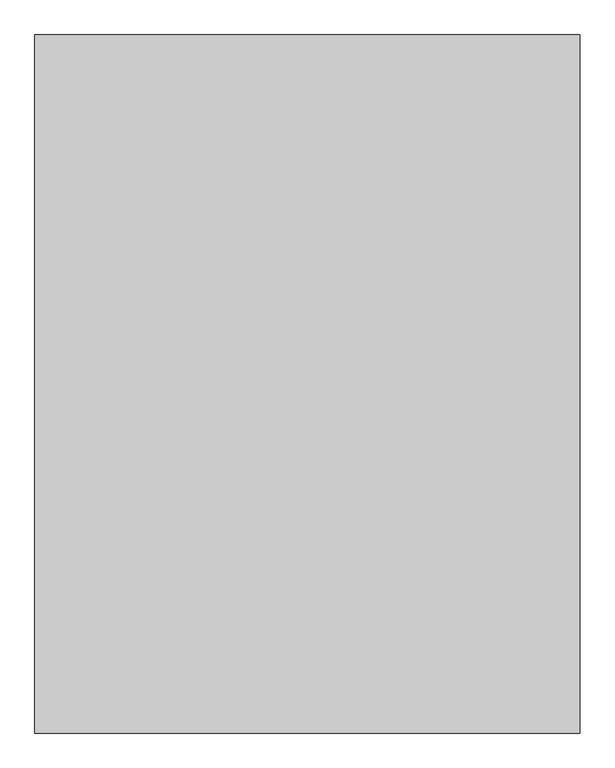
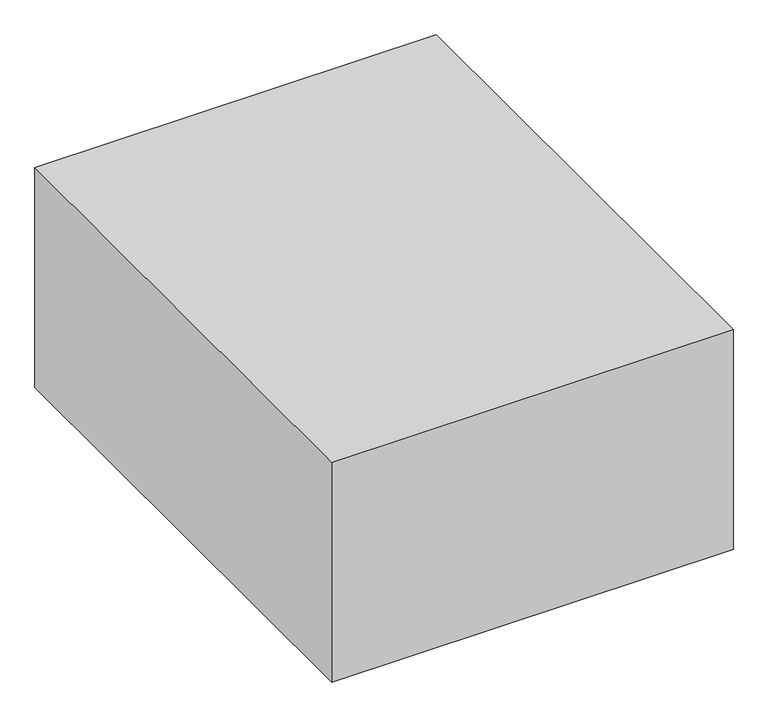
"""IFC4 building model written with IfcOpenShell, lengths in millimetres: furniture geometry, BIMHealth-Bed_Birthing_Bed-LOD2A-v1 : BIMHealth-Bed_Birthing_Bed-LOD2A-v1."""

import ifcopenshell
import ifcopenshell.guid

model = None  # the IFC model being written
_history = None  # IfcOwnerHistory: only IFC2X3 demands one
_inside = {}  # id of a spatial element -> (the spatial element, [elements in it])
_under = {}  # id of a project, library or spatial element -> (it, [spatial elements below it])
_declared = {}  # id of a project -> (the project, [libraries it declares])
_typed = {}  # id of a type object -> (the type object, [elements of that type])
_made_of = {}  # id of a material, layer set ... -> (it, [elements and type objects made of it])


def new_model(schema):
    """Start an empty IFC model of exactly this schema.

    Asked for "IFC4X3", IfcOpenShell would pick the latest addendum, in which some entities
    have other attributes; the version numbers below select the first issue.
    IFC2X3 requires an IfcOwnerHistory on every rooted entity: one is made here for all.
    """
    global model, _history
    if schema == "IFC4X3":
        model = ifcopenshell.file(schema_version=(4, 3, 0, 0))
    else:
        model = ifcopenshell.file(schema=schema)
    _inside.clear()
    _under.clear()
    _declared.clear()
    _typed.clear()
    _made_of.clear()
    _history = None
    if model.schema == "IFC2X3":
        org = make("IfcOrganization", Name="unknown")
        user = make(
            "IfcPersonAndOrganization",
            ThePerson=make("IfcPerson", FamilyName="unknown"),
            TheOrganization=org,
        )
        app = make(
            "IfcApplication",
            ApplicationDeveloper=org,
            Version="unknown",
            ApplicationFullName="unknown",
            ApplicationIdentifier="unknown",
        )
        _history = make(
            "IfcOwnerHistory",
            OwningUser=user,
            OwningApplication=app,
            ChangeAction="ADDED",
            CreationDate=0,
        )
    return model


def make(cls, **values):
    """One entity of the class cls with the attributes given. An attribute that is None is left unset."""
    return model.create_entity(
        cls, **{name: value for name, value in values.items() if value is not None}
    )


def rooted(cls, **values):
    """An entity with a GlobalId (a new one), such as an element, a storey or a relation."""
    return make(cls, GlobalId=ifcopenshell.guid.new(), OwnerHistory=_history, **values)


def si_unit(unit_type, name, prefix=None):
    """IfcSIUnit, for example si_unit("LENGTHUNIT", "METRE", prefix="MILLI")."""
    return make("IfcSIUnit", UnitType=unit_type, Prefix=prefix, Name=name)


def assignment(units):
    """IfcUnitAssignment: the units of a project."""
    return None if units is None else make("IfcUnitAssignment", Units=units)


def point(xyz):
    """IfcCartesianPoint."""
    return None if xyz is None else make("IfcCartesianPoint", Coordinates=xyz)


def direction(xyz):
    """IfcDirection."""
    return None if xyz is None else make("IfcDirection", DirectionRatios=xyz)


def frame(location, z_axis=None, x_axis=None):
    """IfcAxis2Placement3D, a coordinate frame: its origin and axes. An axis left out is left unset."""
    return make(
        "IfcAxis2Placement3D",
        Location=point(location),
        Axis=direction(z_axis),
        RefDirection=direction(x_axis),
    )


def frame_2d(location, x_axis=None):
    """IfcAxis2Placement2D, a coordinate frame in the plane: its origin and x axis."""
    return make(
        "IfcAxis2Placement2D", Location=point(location), RefDirection=direction(x_axis)
    )


def origin():
    """The frame at (0, 0, 0) with its axes left unset."""
    return frame((0.0, 0.0, 0.0))


def origin_with_axes():
    """The frame at (0, 0, 0) with the z axis (0, 0, 1) and the x axis (1, 0, 0) written out."""
    return frame((0.0, 0.0, 0.0), z_axis=(0.0, 0.0, 1.0), x_axis=(1.0, 0.0, 0.0))


def place(relative_to, where):
    """IfcLocalPlacement: puts the frame where relative to a parent placement (None: the world)."""
    return make(
        "IfcLocalPlacement", PlacementRelTo=relative_to, RelativePlacement=where
    )


def context(
    kind, dimensions, precision=None, world=None, true_north=None, identifier=None
):
    """IfcGeometricRepresentationContext, for example the 3D "Model" context."""
    return make(
        "IfcGeometricRepresentationContext",
        ContextIdentifier=identifier,
        ContextType=kind,
        CoordinateSpaceDimension=dimensions,
        Precision=precision,
        WorldCoordinateSystem=world,
        TrueNorth=true_north,
    )


def project(units=None, contexts=None):
    """IfcProject with its units and contexts."""
    return rooted(
        "IfcProject",
        Name="project",
        RepresentationContexts=contexts,
        UnitsInContext=assignment(units),
    )


def spatial(cls, under=None, at=None, **own):
    """A site, building, storey or space (cls), placed at a placement, below another one or the project."""
    s = rooted(cls, ObjectPlacement=at, **own)
    if under is not None:
        _under.setdefault(under.id(), (under, []))[1].append(s)
    return s


def polyline(points):
    """IfcPolyline through the points."""
    return make("IfcPolyline", Points=[point(p) for p in points])


def circle_curve(where, radius):
    """IfcCircle in the frame where."""
    return make("IfcCircle", Position=where, Radius=radius)


def trimmed(basis, trim1, trim2, sense, master):
    """IfcTrimmedCurve: the piece of a basis curve between two trims."""
    return make(
        "IfcTrimmedCurve",
        BasisCurve=basis,
        Trim1=trim1,
        Trim2=trim2,
        SenseAgreement=sense,
        MasterRepresentation=master,
    )


def segment(curve, same_sense, transition):
    """IfcCompositeCurveSegment."""
    return make(
        "IfcCompositeCurveSegment",
        Transition=transition,
        SameSense=same_sense,
        ParentCurve=curve,
    )


def composite_curve(segments, self_intersect=None):
    """IfcCompositeCurve: segments joined end to end."""
    return make("IfcCompositeCurve", Segments=segments, SelfIntersect=self_intersect)


def outline(outer, holes=None, kind="AREA"):
    """IfcArbitraryClosedProfileDef: a profile drawn as a closed curve; with holes, ...WithVoids."""
    if holes is None:
        return make("IfcArbitraryClosedProfileDef", ProfileType=kind, OuterCurve=outer)
    return make(
        "IfcArbitraryProfileDefWithVoids",
        ProfileType=kind,
        OuterCurve=outer,
        InnerCurves=holes,
    )


def extrude(swept, where, along, depth):
    """IfcExtrudedAreaSolid: the profile swept, set in the frame where, extruded along a direction by depth."""
    return make(
        "IfcExtrudedAreaSolid",
        SweptArea=swept,
        Position=where,
        ExtrudedDirection=direction(along),
        Depth=depth,
    )


def shape(context_of_items, identifier, shape_type, items):
    """IfcShapeRepresentation: the items that make up one representation, for example the "Body"."""
    return make(
        "IfcShapeRepresentation",
        ContextOfItems=context_of_items,
        RepresentationIdentifier=identifier,
        RepresentationType=shape_type,
        Items=items,
    )


def source(mapping_origin, context_of_items, identifier, shape_type, items):
    """IfcRepresentationMap: a shape defined once, which mapped items show again and again."""
    return make(
        "IfcRepresentationMap",
        MappingOrigin=mapping_origin,
        MappedRepresentation=shape(context_of_items, identifier, shape_type, items),
    )


def transform(
    local_origin,
    x_axis=None,
    y_axis=None,
    z_axis=None,
    scale=None,
    scale2=None,
    scale3=None,
    uniform=True,
):
    """IfcCartesianTransformationOperator3D, or its non-uniform kind. x_axis, y_axis, z_axis: its Axis1, 2, 3."""
    if uniform:
        return make(
            "IfcCartesianTransformationOperator3D",
            Axis1=direction(x_axis),
            Axis2=direction(y_axis),
            LocalOrigin=point(local_origin),
            Scale=scale,
            Axis3=direction(z_axis),
        )
    return make(
        "IfcCartesianTransformationOperator3DnonUniform",
        Axis1=direction(x_axis),
        Axis2=direction(y_axis),
        LocalOrigin=point(local_origin),
        Scale=scale,
        Axis3=direction(z_axis),
        Scale2=scale2,
        Scale3=scale3,
    )


def mapped(mapping_source, mapping_target):
    """IfcMappedItem: shows the shape of a source again, moved by a transform."""
    return make(
        "IfcMappedItem", MappingSource=mapping_source, MappingTarget=mapping_target
    )


def made_of(thing, what):
    """Note that an element or type object is made of a material, layer set ...; save() writes the relation."""
    if what is not None:
        _made_of.setdefault(what.id(), (what, []))[1].append(thing)
    return thing


def element(
    cls,
    number,
    at=None,
    inside=None,
    cuts=None,
    type_object=None,
    material=None,
    context=None,
    identifier="Body",
    shape_type=None,
    held_by="IfcProductDefinitionShape",
    body=None,
    shapes=None,
    **own,
):
    """One element of the class cls, such as IfcWall. Its Tag is "e" and its number.

    at: its placement. inside: the storey or other place that contains it. cuts: it is an
    opening in that element (IfcRelVoidsElement). A single representation is given by context,
    identifier, shape_type and body (its items); several are given by shapes. held_by: the class
    of the entity that holds the representations. save() writes the other relations.
    """
    e = rooted(cls, Tag="e%d" % number, ObjectPlacement=at, **own)
    if body is not None:
        shapes = [shape(context, identifier, shape_type, body)]
    if shapes is not None:
        e.Representation = make(held_by, Representations=shapes)
    if inside is not None:
        _inside.setdefault(inside.id(), (inside, []))[1].append(e)
    if cuts is not None:
        rooted(
            "IfcRelVoidsElement", RelatingBuildingElement=cuts, RelatedOpeningElement=e
        )
    if type_object is not None:
        _typed.setdefault(type_object.id(), (type_object, []))[1].append(e)
    return made_of(e, material)


def aggregate(whole, parts):
    """IfcRelAggregates: a whole, such as a stair, and the parts it consists of."""
    return rooted("IfcRelAggregates", RelatingObject=whole, RelatedObjects=parts)


def save(model, path):
    """Write the relations noted so far, then the file.

    IfcRelAggregates (storeys below a building ...), IfcRelContainedInSpatialStructure (elements
    in a storey), IfcRelDefinesByType, IfcRelAssociatesMaterial and IfcRelDeclares: one each for
    every whole, place, type object, material and project.
    """
    for whole, parts in _under.values():
        aggregate(whole, parts)
    for where, things in _inside.values():
        rooted(
            "IfcRelContainedInSpatialStructure",
            RelatedElements=things,
            RelatingStructure=where,
        )
    for kind, things in _typed.values():
        rooted("IfcRelDefinesByType", RelatedObjects=things, RelatingType=kind)
    for what, things in _made_of.values():
        rooted("IfcRelAssociatesMaterial", RelatedObjects=things, RelatingMaterial=what)
    for by, libraries in _declared.values():
        rooted("IfcRelDeclares", RelatingContext=by, RelatedDefinitions=libraries)
    model.write(path)


def furniture_b104e96e(model_context):
    return source(origin(), model_context, "Body", "SweptSolid", [
        extrude(outline(polyline([(-935.0, 344.0), (-135.0, 344.0), (-135.0, 269.0), (-805.0961894, 269.0), (-935.0, 344.0)])), frame((-250.0, 0.0, 0.0), z_axis=(1.0, 0.0, 0.0), x_axis=(0.0, 1.0, 0.0)), (0.0, 0.0, 1.0), 500.0),
        extrude(outline(composite_curve([segment(trimmed(circle_curve(frame_2d((-200.0, 879.8644864)), 30.0), [point((-230.0, 879.8644864))], [point((-170.0, 879.8644864))], False, "CARTESIAN"), True, "CONTINUOUS"), segment(trimmed(circle_curve(frame_2d((-200.0, 879.8644864)), 30.0), [point((-170.0, 879.8644864))], [point((-230.0, 879.8644864))], False, "CARTESIAN"), True, "CONTINUOUS")], self_intersect=False)), frame((0.0, 0.0, 403.0), z_axis=(0.0, 0.0, 1.0), x_axis=(1.0, 0.0, 0.0)), (0.0, 0.0, 1.0), 357.0),
        extrude(outline(composite_curve([segment(trimmed(circle_curve(frame_2d((200.0, 879.8644864)), 30.0), [point((230.0, 879.8644864))], [point((170.0, 879.8644864))], False, "CARTESIAN"), True, "CONTINUOUS"), segment(trimmed(circle_curve(frame_2d((200.0, 879.8644864)), 30.0), [point((170.0, 879.8644864))], [point((230.0, 879.8644864))], False, "CARTESIAN"), True, "CONTINUOUS")], self_intersect=False)), frame((0.0, 0.0, 403.0), z_axis=(0.0, 0.0, 1.0), x_axis=(1.0, 0.0, 0.0)), (0.0, 0.0, 1.0), 357.0),
        extrude(outline(polyline([(350.0, 1079.8644864), (350.0, 679.8644864), (-350.0, 679.8644864), (-350.0, 1079.8644864), (350.0, 1079.8644864)])), frame((0.0, 0.0, 344.0), z_axis=(0.0, 0.0, 1.0), x_axis=(1.0, 0.0, 0.0)), (0.0, 0.0, 1.0), 59.0),
        extrude(outline(composite_curve([segment(trimmed(circle_curve(frame_2d((-370.0, -75.0)), 20.0), [point((-350.0, -75.0))], [point((-390.0, -75.0))], False, "CARTESIAN"), True, "CONTINUOUS"), segment(trimmed(circle_curve(frame_2d((-370.0, -75.0)), 20.0), [point((-390.0, -75.0))], [point((-350.0, -75.0))], False, "CARTESIAN"), True, "CONTINUOUS")], self_intersect=False)), frame((0.0, 0.0, 175.0), z_axis=(0.0, 0.0, 1.0), x_axis=(1.0, 0.0, 0.0)), (0.0, 0.0, 1.0), 58.0),
        extrude(outline(polyline([(-392.5, -107.5), (-392.5, -42.5), (-347.5, -42.5), (-347.5, -107.5), (-392.5, -107.5)])), frame((0.0, 0.0, 165.0), z_axis=(0.0, 0.0, 1.0), x_axis=(1.0, 0.0, 0.0)), (0.0, 0.0, 1.0), 10.0),
        extrude(outline(polyline([(-107.5, 75.0), (-107.5, 165.0), (-42.5, 165.0), (-42.5, 150.0), (-97.5, 75.0), (-107.5, 75.0)])), frame((-357.5, 0.0, 0.0), z_axis=(1.0, 0.0, 0.0), x_axis=(0.0, 1.0, 0.0)), (0.0, 0.0, 1.0), 10.0),
        extrude(outline(polyline([(-107.5, 75.0), (-107.5, 165.0), (-42.5, 165.0), (-42.5, 150.0), (-97.5, 75.0), (-107.5, 75.0)])), frame((-392.5, 0.0, 0.0), z_axis=(1.0, 0.0, 0.0), x_axis=(0.0, 1.0, 0.0)), (0.0, 0.0, 1.0), 10.0),
        extrude(outline(composite_curve([segment(trimmed(circle_curve(frame_2d((-97.5, 75.0)), 75.0), [point((-172.5, 75.0))], [point((-22.5, 75.0))], False, "CARTESIAN"), True, "CONTINUOUS"), segment(trimmed(circle_curve(frame_2d((-97.5, 75.0)), 75.0), [point((-22.5, 75.0))], [point((-172.5, 75.0))], False, "CARTESIAN"), True, "CONTINUOUS")], self_intersect=False)), frame((-382.5, 0.0, 0.0), z_axis=(1.0, 0.0, 0.0), x_axis=(0.0, 1.0, 0.0)), (0.0, 0.0, 1.0), 25.0),
        extrude(outline(composite_curve([segment(trimmed(circle_curve(frame_2d((370.0, -75.0)), 20.0), [point((350.0, -75.0))], [point((390.0, -75.0))], False, "CARTESIAN"), True, "CONTINUOUS"), segment(trimmed(circle_curve(frame_2d((370.0, -75.0)), 20.0), [point((390.0, -75.0))], [point((350.0, -75.0))], False, "CARTESIAN"), True, "CONTINUOUS")], self_intersect=False)), frame((0.0, 0.0, 175.0), z_axis=(0.0, 0.0, 1.0), x_axis=(1.0, 0.0, 0.0)), (0.0, 0.0, 1.0), 58.0),
        extrude(outline(polyline([(392.5, -42.5), (392.5, -107.5), (347.5, -107.5), (347.5, -42.5), (392.5, -42.5)])), frame((0.0, 0.0, 165.0), z_axis=(0.0, 0.0, 1.0), x_axis=(1.0, 0.0, 0.0)), (0.0, 0.0, 1.0), 10.0),
        extrude(outline(polyline([(-107.5, 75.0), (-107.5, 165.0), (-42.5, 165.0), (-42.5, 150.0), (-97.5, 75.0), (-107.5, 75.0)])), frame((347.5, 0.0, 0.0), z_axis=(1.0, 0.0, 0.0), x_axis=(0.0, 1.0, 0.0)), (0.0, 0.0, 1.0), 10.0),
        extrude(outline(polyline([(-107.5, 75.0), (-107.5, 165.0), (-42.5, 165.0), (-42.5, 150.0), (-97.5, 75.0), (-107.5, 75.0)])), frame((382.5, 0.0, 0.0), z_axis=(1.0, 0.0, 0.0), x_axis=(0.0, 1.0, 0.0)), (0.0, 0.0, 1.0), 10.0),
        extrude(outline(composite_curve([segment(trimmed(circle_curve(frame_2d((-97.5, 75.0)), 75.0), [point((-172.5, 75.0))], [point((-22.5, 75.0))], False, "CARTESIAN"), True, "CONTINUOUS"), segment(trimmed(circle_curve(frame_2d((-97.5, 75.0)), 75.0), [point((-22.5, 75.0))], [point((-172.5, 75.0))], False, "CARTESIAN"), True, "CONTINUOUS")], self_intersect=False)), frame((357.5, 0.0, 0.0), z_axis=(1.0, 0.0, 0.0), x_axis=(0.0, 1.0, 0.0)), (0.0, 0.0, 1.0), 25.0),
        extrude(outline(composite_curve([segment(trimmed(circle_curve(frame_2d((-370.0, 1147.5)), 20.0), [point((-350.0, 1147.5))], [point((-390.0, 1147.5))], False, "CARTESIAN"), True, "CONTINUOUS"), segment(trimmed(circle_curve(frame_2d((-370.0, 1147.5)), 20.0), [point((-390.0, 1147.5))], [point((-350.0, 1147.5))], False, "CARTESIAN"), True, "CONTINUOUS")], self_intersect=False)), frame((0.0, 0.0, 175.0), z_axis=(0.0, 0.0, 1.0), x_axis=(1.0, 0.0, 0.0)), (0.0, 0.0, 1.0), 58.0),
        extrude(outline(polyline([(-392.5, 1115.0), (-392.5, 1180.0), (-347.5, 1180.0), (-347.5, 1115.0), (-392.5, 1115.0)])), frame((0.0, 0.0, 165.0), z_axis=(0.0, 0.0, 1.0), x_axis=(1.0, 0.0, 0.0)), (0.0, 0.0, 1.0), 10.0),
        extrude(outline(polyline([(1180.0, 75.0), (1170.0, 75.0), (1115.0, 150.0), (1115.0, 165.0), (1180.0, 165.0), (1180.0, 75.0)])), frame((-357.5, 0.0, 0.0), z_axis=(1.0, 0.0, 0.0), x_axis=(0.0, 1.0, 0.0)), (0.0, 0.0, 1.0), 10.0),
        extrude(outline(polyline([(1180.0, 75.0), (1170.0, 75.0), (1115.0, 150.0), (1115.0, 165.0), (1180.0, 165.0), (1180.0, 75.0)])), frame((-392.5, 0.0, 0.0), z_axis=(1.0, 0.0, 0.0), x_axis=(0.0, 1.0, 0.0)), (0.0, 0.0, 1.0), 10.0),
        extrude(outline(composite_curve([segment(trimmed(circle_curve(frame_2d((1170.0, 75.0)), 75.0), [point((1245.0, 75.0))], [point((1095.0, 75.0))], False, "CARTESIAN"), True, "CONTINUOUS"), segment(trimmed(circle_curve(frame_2d((1170.0, 75.0)), 75.0), [point((1095.0, 75.0))], [point((1245.0, 75.0))], False, "CARTESIAN"), True, "CONTINUOUS")], self_intersect=False)), frame((-382.5, 0.0, 0.0), z_axis=(1.0, 0.0, 0.0), x_axis=(0.0, 1.0, 0.0)), (0.0, 0.0, 1.0), 25.0),
        extrude(outline(composite_curve([segment(trimmed(circle_curve(frame_2d((370.0, 1147.5)), 20.0), [point((350.0, 1147.5))], [point((390.0, 1147.5))], False, "CARTESIAN"), True, "CONTINUOUS"), segment(trimmed(circle_curve(frame_2d((370.0, 1147.5)), 20.0), [point((390.0, 1147.5))], [point((350.0, 1147.5))], False, "CARTESIAN"), True, "CONTINUOUS")], self_intersect=False)), frame((0.0, 0.0, 175.0), z_axis=(0.0, 0.0, 1.0), x_axis=(1.0, 0.0, 0.0)), (0.0, 0.0, 1.0), 58.0),
        extrude(outline(polyline([(392.5, 1180.0), (392.5, 1115.0), (347.5, 1115.0), (347.5, 1180.0), (392.5, 1180.0)])), frame((0.0, 0.0, 165.0), z_axis=(0.0, 0.0, 1.0), x_axis=(1.0, 0.0, 0.0)), (0.0, 0.0, 1.0), 10.0),
        extrude(outline(polyline([(1180.0, 75.0), (1170.0, 75.0), (1115.0, 150.0), (1115.0, 165.0), (1180.0, 165.0), (1180.0, 75.0)])), frame((347.5, 0.0, 0.0), z_axis=(1.0, 0.0, 0.0), x_axis=(0.0, 1.0, 0.0)), (0.0, 0.0, 1.0), 10.0),
        extrude(outline(polyline([(1180.0, 75.0), (1170.0, 75.0), (1115.0, 150.0), (1115.0, 165.0), (1180.0, 165.0), (1180.0, 75.0)])), frame((382.5, 0.0, 0.0), z_axis=(1.0, 0.0, 0.0), x_axis=(0.0, 1.0, 0.0)), (0.0, 0.0, 1.0), 10.0),
        extrude(outline(composite_curve([segment(trimmed(circle_curve(frame_2d((1170.0, 75.0)), 75.0), [point((1245.0, 75.0))], [point((1095.0, 75.0))], False, "CARTESIAN"), True, "CONTINUOUS"), segment(trimmed(circle_curve(frame_2d((1170.0, 75.0)), 75.0), [point((1095.0, 75.0))], [point((1245.0, 75.0))], False, "CARTESIAN"), True, "CONTINUOUS")], self_intersect=False)), frame((357.5, 0.0, 0.0), z_axis=(1.0, 0.0, 0.0), x_axis=(0.0, 1.0, 0.0)), (0.0, 0.0, 1.0), 25.0),
        extrude(outline(polyline([(580.0, 350.0), (433.0, 350.0), (344.0, 350.0), (344.0, 370.0), (580.0, 370.0), (580.0, 350.0)])), frame((0.0, 1170.0, 0.0), z_axis=(0.0, 1.0, 0.0), x_axis=(0.0, 0.0, 1.0)), (0.0, 0.0, 1.0), 20.0),
        extrude(outline(polyline([(580.0, -370.0), (433.0, -370.0), (344.0, -370.0), (344.0, -350.0), (580.0, -350.0), (580.0, -370.0)])), frame((0.0, 1170.0, 0.0), z_axis=(0.0, 1.0, 0.0), x_axis=(0.0, 0.0, 1.0)), (0.0, 0.0, 1.0), 20.0),
        extrude(outline(composite_curve([segment(polyline([(580.0, 525.0), (980.0, 525.0)]), True, "CONTINUOUS"), segment(trimmed(circle_curve(frame_2d((980.0, 475.0)), 50.0), [point((980.0, 525.0))], [point((1030.0, 475.0))], False, "CARTESIAN"), True, "CONTINUOUS"), segment(polyline([(1030.0, 475.0), (1030.0, -475.0)]), True, "CONTINUOUS"), segment(trimmed(circle_curve(frame_2d((980.0, -475.0)), 50.0), [point((1030.0, -475.0))], [point((980.0, -525.0))], False, "CARTESIAN"), True, "CONTINUOUS"), segment(polyline([(980.0, -525.0), (580.0, -525.0), (580.0, 525.0)]), True, "CONTINUOUS")], self_intersect=False)), frame((0.0, 1170.0, 0.0), z_axis=(0.0, 1.0, 0.0), x_axis=(0.0, 0.0, 1.0)), (0.0, 0.0, 1.0), 25.0),
        extrude(outline(polyline([(-400.0, -135.0), (-400.0, 1170.0), (400.0, 1170.0), (400.0, -135.0), (0.0, -135.0), (-400.0, -135.0)]), holes=[polyline([(350.0, 1079.8644864), (-350.0, 1079.8644864), (-350.0, 679.8644864), (350.0, 679.8644864), (350.0, 1079.8644864)])]), frame((0.0, 0.0, 233.0), z_axis=(0.0, 0.0, 1.0), x_axis=(1.0, 0.0, 0.0)), (0.0, 0.0, 1.0), 200.0),
        extrude(outline(composite_curve([segment(polyline([(-495.0, -1170.0), (-495.0, -330.0), (-195.0, -330.0)]), True, "CONTINUOUS"), segment(trimmed(circle_curve(frame_2d((0.0, -330.0)), 195.0), [point((-195.0, -330.0))], [point((195.0, -330.0))], False, "CARTESIAN"), True, "CONTINUOUS"), segment(polyline([(195.0, -330.0), (495.0, -330.0), (495.0, -1170.0), (-495.0, -1170.0)]), True, "CONTINUOUS")], self_intersect=False)), frame((0.0, 0.0, 344.0), z_axis=(0.0, 0.0, 1.0), x_axis=(1.0, 0.0, 0.0)), (0.0, 0.0, 1.0), 89.0),
        extrude(outline(polyline([(672.9394133, 814.5245), (735.0642978, 681.2972553), (599.1181297, 617.904516), (536.9932452, 751.1317607), (604.9663293, 782.8281304), (672.9394133, 814.5245)])), frame((495.0, 0.0, 0.0), z_axis=(1.0, 0.0, 0.0), x_axis=(0.0, 1.0, 0.0)), (0.0, 0.0, 1.0), 25.0),
        extrude(outline(polyline([(672.9394133, 814.5245), (735.0642978, 681.2972553), (599.1181297, 617.904516), (536.9932452, 751.1317607), (604.9663293, 782.8281304), (672.9394133, 814.5245)])), frame((-520.0, 0.0, 0.0), z_axis=(1.0, 0.0, 0.0), x_axis=(0.0, 1.0, 0.0)), (0.0, 0.0, 1.0), 25.0),
        extrude(outline(composite_curve([segment(trimmed(circle_curve(frame_2d((1336.9175444, -1163.0337347)), 2368.2281756), [point((482.4070333, 1045.6573886))], [point((820.7456719, 1148.2583909))], False, "CARTESIAN"), True, "CONTINUOUS"), segment(trimmed(circle_curve(frame_2d((817.6322225, 1098.3554207)), 50.0), [point((820.7456719, 1148.2583909))], [point((847.3241929, 1138.5846004))], False, "CARTESIAN"), True, "CONTINUOUS"), segment(polyline([(847.3241929, 1138.5846004), (902.2645669, 1020.764588), (793.5076325, 970.0503966), (814.6385455, 924.7350073)]), True, "CONTINUOUS"), segment(trimmed(circle_curve(frame_2d((778.3862341, 907.8302768)), 40.0), [point((814.6385455, 924.7350073))], [point((795.2909645, 871.5779653))], False, "CARTESIAN"), True, "CONTINUOUS"), segment(polyline([(795.2909645, 871.5779653), (414.641694, 694.0782954)]), True, "CONTINUOUS"), segment(trimmed(circle_curve(frame_2d((397.7369635, 730.3306069)), 40.0), [point((414.641694, 694.0782954))], [point((361.484652, 713.4258764))], False, "CARTESIAN"), True, "CONTINUOUS"), segment(polyline([(361.484652, 713.4258764), (340.3537389, 758.7412658), (231.5968045, 708.0270744), (176.6564305, 825.8470867)]), True, "CONTINUOUS"), segment(trimmed(circle_curve(frame_2d((226.5594006, 822.7336373)), 50.0), [point((176.6564305, 825.8470867))], [point((186.330221, 852.4256077))], False, "CARTESIAN"), True, "CONTINUOUS"), segment(trimmed(circle_curve(frame_2d((1625.0938261, -1028.6549276)), 2368.2281756), [point((186.330221, 852.4256077))], [point((482.4070333, 1045.6573886))], False, "CARTESIAN"), True, "CONTINUOUS")], self_intersect=False), holes=[composite_curve([segment(trimmed(circle_curve(frame_2d((1241.360835, -838.177971)), 2011.0005568), [point((829.1980371, 1130.1322351))], [point((504.8196528, 1033.0863947))], True, "CARTESIAN"), True, "CONTINUOUS"), segment(polyline([(504.8196528, 1033.0863947), (542.4896589, 952.302806), (719.2196774, 1034.713367)]), True, "CONTINUOUS"), segment(trimmed(circle_curve(frame_2d((736.1244079, 998.4610555)), 40.0), [point((719.2196774, 1034.713367))], [point((772.3767194, 1015.365786))], False, "CARTESIAN"), True, "CONTINUOUS"), segment(polyline([(772.3767194, 1015.365786), (785.0552672, 988.1765524), (875.6860459, 1030.4383786), (829.1980371, 1130.1322351)]), True, "CONTINUOUS")], self_intersect=False), composite_curve([segment(polyline([(194.7825862, 834.2994519), (241.270595, 734.6055953), (331.9013737, 776.8674215), (319.2228259, 804.0566551)]), True, "CONTINUOUS"), segment(trimmed(circle_curve(frame_2d((355.4751373, 820.9613856)), 40.0), [point((319.2228259, 804.0566551))], [point((338.5704069, 857.2136971))], False, "CARTESIAN"), True, "CONTINUOUS"), segment(polyline([(338.5704069, 857.2136971), (515.3004253, 939.6242581), (477.6304192, 1020.4078469)]), True, "CONTINUOUS"), segment(trimmed(circle_curve(frame_2d((1437.6625423, -746.6409816)), 2011.0005568), [point((477.6304192, 1020.4078469))], [point((194.7825862, 834.2994519))], True, "CARTESIAN"), True, "CONTINUOUS")], self_intersect=False)]), frame((495.0, 0.0, 0.0), z_axis=(1.0, 0.0, 0.0), x_axis=(0.0, 1.0, 0.0)), (0.0, 0.0, 1.0), 30.0),
        extrude(outline(composite_curve([segment(trimmed(circle_curve(frame_2d((1336.9175444, -1163.0337347)), 2368.2281756), [point((482.4070333, 1045.6573886))], [point((820.7456719, 1148.2583909))], False, "CARTESIAN"), True, "CONTINUOUS"), segment(trimmed(circle_curve(frame_2d((817.6322225, 1098.3554207)), 50.0), [point((820.7456719, 1148.2583909))], [point((847.3241929, 1138.5846004))], False, "CARTESIAN"), True, "CONTINUOUS"), segment(polyline([(847.3241929, 1138.5846004), (902.2645669, 1020.764588), (793.5076325, 970.0503966), (814.6385455, 924.7350073)]), True, "CONTINUOUS"), segment(trimmed(circle_curve(frame_2d((778.3862341, 907.8302768)), 40.0), [point((814.6385455, 924.7350073))], [point((795.2909645, 871.5779653))], False, "CARTESIAN"), True, "CONTINUOUS"), segment(polyline([(795.2909645, 871.5779653), (414.641694, 694.0782954)]), True, "CONTINUOUS"), segment(trimmed(circle_curve(frame_2d((397.7369635, 730.3306069)), 40.0), [point((414.641694, 694.0782954))], [point((361.484652, 713.4258764))], False, "CARTESIAN"), True, "CONTINUOUS"), segment(polyline([(361.484652, 713.4258764), (340.3537389, 758.7412658), (231.5968045, 708.0270744), (176.6564305, 825.8470867)]), True, "CONTINUOUS"), segment(trimmed(circle_curve(frame_2d((226.5594006, 822.7336373)), 50.0), [point((176.6564305, 825.8470867))], [point((186.330221, 852.4256077))], False, "CARTESIAN"), True, "CONTINUOUS"), segment(trimmed(circle_curve(frame_2d((1625.0938261, -1028.6549276)), 2368.2281756), [point((186.330221, 852.4256077))], [point((482.4070333, 1045.6573886))], False, "CARTESIAN"), True, "CONTINUOUS")], self_intersect=False), holes=[composite_curve([segment(trimmed(circle_curve(frame_2d((1241.360835, -838.177971)), 2011.0005568), [point((829.1980371, 1130.1322351))], [point((504.8196528, 1033.0863947))], True, "CARTESIAN"), True, "CONTINUOUS"), segment(polyline([(504.8196528, 1033.0863947), (542.4896589, 952.302806), (719.2196774, 1034.713367)]), True, "CONTINUOUS"), segment(trimmed(circle_curve(frame_2d((736.1244079, 998.4610555)), 40.0), [point((719.2196774, 1034.713367))], [point((772.3767194, 1015.365786))], False, "CARTESIAN"), True, "CONTINUOUS"), segment(polyline([(772.3767194, 1015.365786), (785.0552672, 988.1765524), (875.6860459, 1030.4383786), (829.1980371, 1130.1322351)]), True, "CONTINUOUS")], self_intersect=False), composite_curve([segment(polyline([(194.7825862, 834.2994519), (241.270595, 734.6055953), (331.9013737, 776.8674215), (319.2228259, 804.0566551)]), True, "CONTINUOUS"), segment(trimmed(circle_curve(frame_2d((355.4751373, 820.9613856)), 40.0), [point((319.2228259, 804.0566551))], [point((338.5704069, 857.2136971))], False, "CARTESIAN"), True, "CONTINUOUS"), segment(polyline([(338.5704069, 857.2136971), (515.3004253, 939.6242581), (477.6304192, 1020.4078469)]), True, "CONTINUOUS"), segment(trimmed(circle_curve(frame_2d((1437.6625423, -746.6409816)), 2011.0005568), [point((477.6304192, 1020.4078469))], [point((194.7825862, 834.2994519))], True, "CARTESIAN"), True, "CONTINUOUS")], self_intersect=False)]), frame((-525.0, 0.0, 0.0), z_axis=(1.0, 0.0, 0.0), x_axis=(0.0, 1.0, 0.0)), (0.0, 0.0, 1.0), 30.0),
        extrude(outline(composite_curve([segment(polyline([(495.0, 170.0), (495.0, -330.0), (195.0, -330.0)]), True, "CONTINUOUS"), segment(trimmed(circle_curve(frame_2d((0.0, -330.0)), 195.0), [point((195.0, -330.0))], [point((-195.0, -330.0))], True, "CARTESIAN"), True, "CONTINUOUS"), segment(polyline([(-195.0, -330.0), (-495.0, -330.0), (-495.0, 170.0), (495.0, 170.0)]), True, "CONTINUOUS")], self_intersect=False)), frame((0.0, 0.0, 433.0), z_axis=(0.0, 0.0, 1.0), x_axis=(1.0, 0.0, 0.0)), (0.0, 0.0, 1.0), 20.0),
        extrude(outline(composite_curve([segment(polyline([(0.0, 0.0), (0.0, -990.0), (-959.8644864, -990.0)]), True, "CONTINUOUS"), segment(trimmed(circle_curve(frame_2d((2072.5389713, -495.0)), 3072.5389713), [point((-959.8644864, -990.0))], [point((-959.8644864, 0.0))], False, "CARTESIAN"), True, "CONTINUOUS"), segment(polyline([(-959.8644864, 0.0), (0.0, 0.0)]), True, "CONTINUOUS")], self_intersect=False)), frame((495.0, 232.1248845, 446.7727553), z_axis=(0.0, -0.4226182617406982, 0.9063077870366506), x_axis=(0.0, -0.9063077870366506, -0.4226182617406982)), (0.0, 0.0, 1.0), 20.0),
        extrude(outline(composite_curve([segment(polyline([(-495.0, -330.0), (-495.0, 170.0), (495.0, 170.0), (495.0, -330.0), (195.0, -330.0)]), True, "CONTINUOUS"), segment(trimmed(circle_curve(frame_2d((0.0, -330.0)), 195.0), [point((195.0, -330.0))], [point((-195.0, -330.0))], True, "CARTESIAN"), True, "CONTINUOUS"), segment(polyline([(-195.0, -330.0), (-495.0, -330.0)]), True, "CONTINUOUS")], self_intersect=False)), frame((0.0, 0.0, 453.0), z_axis=(0.0, 0.0, 1.0), x_axis=(1.0, 0.0, 0.0)), (0.0, 0.0, 1.0), 127.0),
        extrude(outline(composite_curve([segment(polyline([(0.0, 0.0), (0.0, -959.8644864)]), True, "CONTINUOUS"), segment(trimmed(circle_curve(frame_2d((-495.0, 2072.5389713)), 3072.5389713), [point((0.0, -959.8644864))], [point((-990.0, -959.8644864))], False, "CARTESIAN"), True, "CONTINUOUS"), segment(polyline([(-990.0, -959.8644864), (-990.0, 0.0), (0.0, 0.0)]), True, "CONTINUOUS")], self_intersect=False)), frame((-495.0, 223.6725192, 464.898911), z_axis=(0.0, -0.4226182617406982, 0.9063077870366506), x_axis=(-1.0, 0.0, 0.0)), (0.0, 0.0, 1.0), 127.0),
        extrude(outline(polyline([(1295.0, 1345.0), (1295.0, -1970.0), (-1295.0, -1970.0), (-1295.0, 1345.0), (1295.0, 1345.0)])), origin_with_axes(), (0.0, 0.0, 1.0), 1500.0),
    ])


if __name__ == "__main__":
    model = new_model("IFC4")
    model_context = context("Model", 3, world=origin())
    ifc_project = project(units=[si_unit("LENGTHUNIT", "METRE", prefix="MILLI")], contexts=[model_context])
    site = spatial("IfcSite", under=ifc_project)
    building = spatial("IfcBuilding", under=site)
    placement = place(None, origin())
    furniture_shape = furniture_b104e96e(model_context)
    element("IfcFurniture", 1, ObjectType="BIMHealth-Bed_Birthing_Bed-LOD2A-v1 : BIMHealth-Bed_Birthing_Bed-LOD2A-v1", at=placement, inside=building, context=model_context, shape_type="MappedRepresentation", body=[
        mapped(furniture_shape, transform((0.0, 0.0, 0.0), x_axis=(1.0, 0.0, 0.0), y_axis=(0.0, 1.0, 0.0), z_axis=(0.0, 0.0, 1.0))),
    ])
    save(model, "model.ifc")
